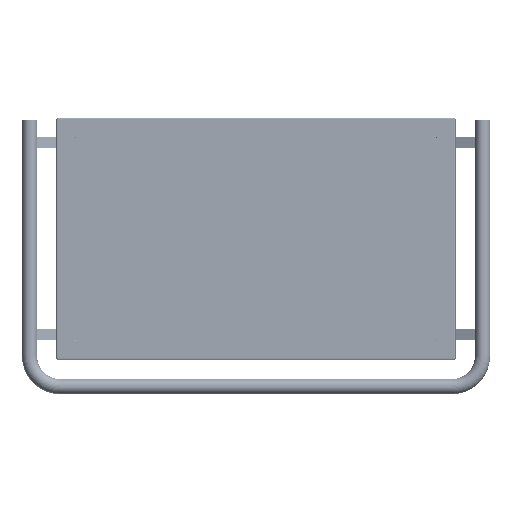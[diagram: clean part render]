
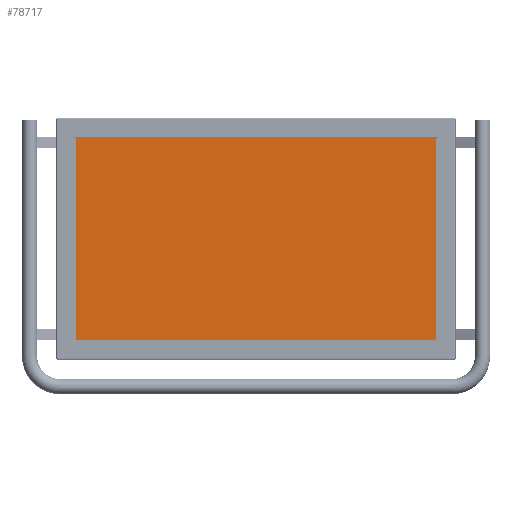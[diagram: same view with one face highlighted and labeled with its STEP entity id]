
A CAD part, top view. The second image highlights one B-rep face of the part: STEP entity #78717.
In plain terms, the highlighted planar face has unit normal (0, 0, 1) as drawn and (0, 1, 0) by its records, which use the part's own axes.
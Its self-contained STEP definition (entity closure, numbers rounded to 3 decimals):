
#1366 = ORIENTED_EDGE ( 'NONE', *, *, #116093, .F. ) ;
#4628 = DIRECTION ( 'NONE',  ( 0., 0., -1. ) ) ;
#7615 = VERTEX_POINT ( 'NONE', #114958 ) ;
#14780 = VECTOR ( 'NONE', #15969, 1000. ) ;
#15969 = DIRECTION ( 'NONE',  ( 1., 0., 0. ) ) ;
#17018 = EDGE_CURVE ( 'NONE', #165137, #118588, #70506, .T. ) ;
#22011 = VECTOR ( 'NONE', #146554, 1000. ) ;
#31178 = PLANE ( 'NONE',  #185265 ) ;
#32126 = LINE ( 'NONE', #174825, #14780 ) ;
#35551 = VECTOR ( 'NONE', #4628, 1000. ) ;
#42007 = CARTESIAN_POINT ( 'NONE',  ( 0., 3.25, 134.3 ) ) ;
#44811 = CARTESIAN_POINT ( 'NONE',  ( 238.75, 3.25, 134.3 ) ) ;
#55686 = EDGE_CURVE ( 'NONE', #7615, #150575, #32126, .T. ) ;
#58786 = DIRECTION ( 'NONE',  ( 1., 0., 0. ) ) ;
#61047 = ORIENTED_EDGE ( 'NONE', *, *, #55686, .F. ) ;
#64890 = CARTESIAN_POINT ( 'NONE',  ( -238.75, 3.25, 134.3 ) ) ;
#67575 = EDGE_LOOP ( 'NONE', ( #1366, #61047, #125754, #145422 ) ) ;
#70506 = LINE ( 'NONE', #42007, #22011 ) ;
#78717 = ADVANCED_FACE ( 'NONE', ( #89173 ), #31178, .T. ) ;
#88236 = CARTESIAN_POINT ( 'NONE',  ( 0., 3.25, 0. ) ) ;
#89173 = FACE_OUTER_BOUND ( 'NONE', #67575, .T. ) ;
#94007 = LINE ( 'NONE', #149224, #35551 ) ;
#94065 = LINE ( 'NONE', #137775, #167615 ) ;
#114958 = CARTESIAN_POINT ( 'NONE',  ( -238.75, 3.25, -134.3 ) ) ;
#116093 = EDGE_CURVE ( 'NONE', #150575, #165137, #94065, .T. ) ;
#118588 = VERTEX_POINT ( 'NONE', #64890 ) ;
#119508 = DIRECTION ( 'NONE',  ( 0., 1., 0. ) ) ;
#123502 = DIRECTION ( 'NONE',  ( 0., 0., 1. ) ) ;
#125754 = ORIENTED_EDGE ( 'NONE', *, *, #176970, .F. ) ;
#137775 = CARTESIAN_POINT ( 'NONE',  ( 238.75, 3.25, 0. ) ) ;
#145422 = ORIENTED_EDGE ( 'NONE', *, *, #17018, .F. ) ;
#146554 = DIRECTION ( 'NONE',  ( -1., 0., 0. ) ) ;
#149224 = CARTESIAN_POINT ( 'NONE',  ( -238.75, 3.25, 0. ) ) ;
#150575 = VERTEX_POINT ( 'NONE', #172537 ) ;
#165137 = VERTEX_POINT ( 'NONE', #44811 ) ;
#167615 = VECTOR ( 'NONE', #123502, 1000. ) ;
#172537 = CARTESIAN_POINT ( 'NONE',  ( 238.75, 3.25, -134.3 ) ) ;
#174825 = CARTESIAN_POINT ( 'NONE',  ( 0., 3.25, -134.3 ) ) ;
#176970 = EDGE_CURVE ( 'NONE', #118588, #7615, #94007, .T. ) ;
#185265 = AXIS2_PLACEMENT_3D ( 'NONE', #88236, #119508, #58786 ) ;
